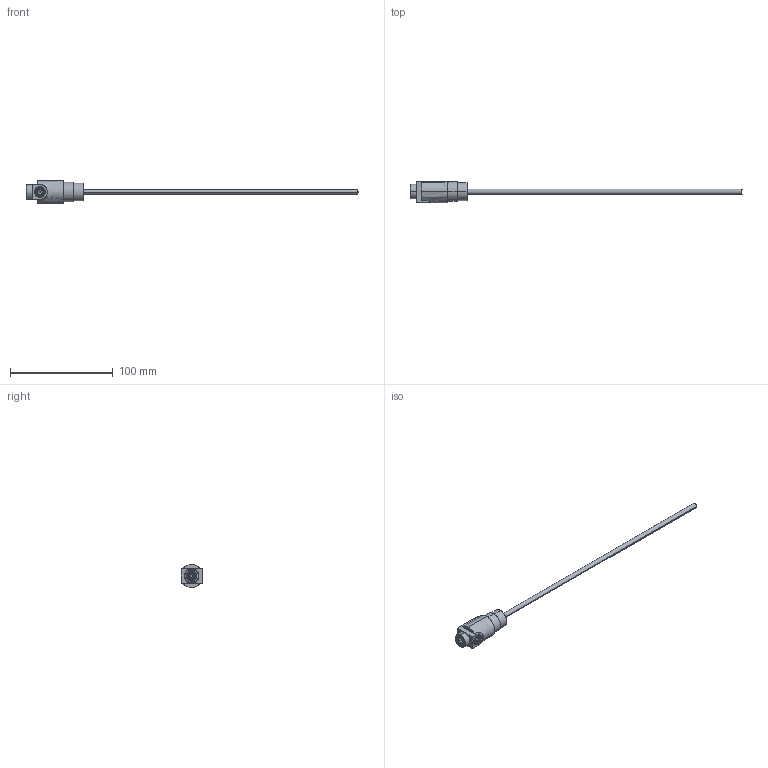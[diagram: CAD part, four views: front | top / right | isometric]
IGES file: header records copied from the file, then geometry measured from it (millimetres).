
Start section: SolidWorks IGES file using analytic representation for surfaces
Global section: file name: C:\Users\365admin\AppData\Local\Temp\InFlowConvert3DWorking\RLQC1814.igs; native system: SolidWorks 2020; preprocessor: SolidWorks 2020; author: 365admin; date: 220714.211221; units: inch
Bounding box: 323.53 x 21.42 x 22.23 mm (x, y, z)
Surface area: 15473.6 mm2 (no closed solid volume)
Topology: 0 solids, 0 shells, 149 faces, 2247 edges, 2247 vertices
Faces by surface type: bspline 75, revolution 74
